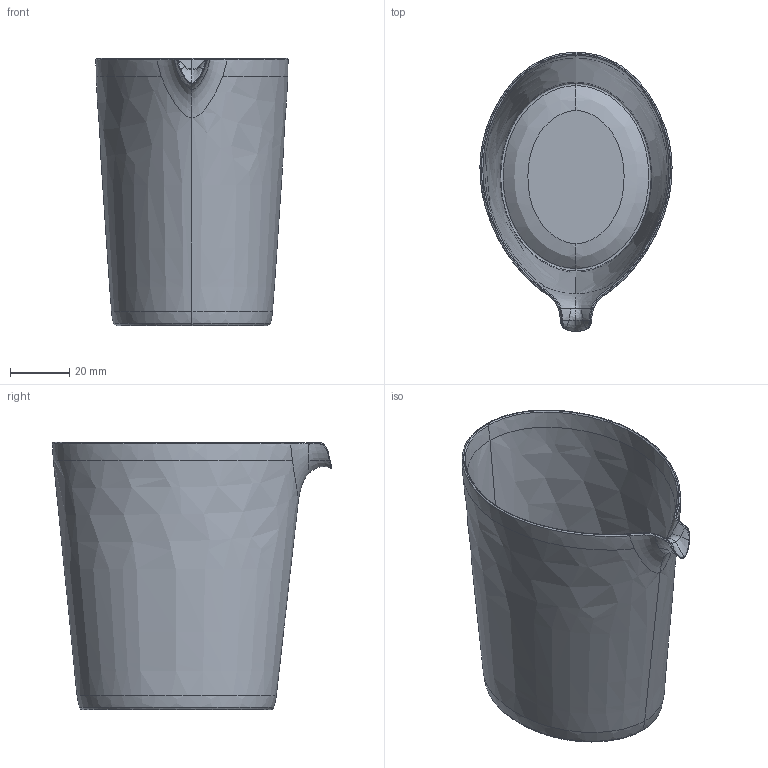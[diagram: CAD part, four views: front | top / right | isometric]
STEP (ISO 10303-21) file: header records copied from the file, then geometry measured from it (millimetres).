
FILE_DESCRIPTION(/* description */ (''),/* implementation_level */ '2;1');
FILE_NAME(/* name */ '公道杯123.stp',/* time_stamp */ '2015-03-26T15:52:30+08:00',/* author */ (''),/* organization */ (''),/* preprocessor_version */ 'ST-DEVELOPER v16',/* originating_system */ 'SIEMENS PLM Software NX 10.0',/* authorisation */ '');
FILE_SCHEMA (('AUTOMOTIVE_DESIGN { 1 0 10303 214 3 1 1 1 }'));
Length unit declared in the file: millimetre
Products named in the file (1): Admi1B44405Dt0qt
Bounding box: 64.76 x 94.12 x 90.01 mm (x, y, z)
Volume: 32653 mm3; surface area: 42935.3 mm2
Topology: 1 solids, 1 shells, 78 faces, 182 edges, 107 vertices
Faces by surface type: bspline 71, extrusion 4, plane 3
Entity records: 14731 total; most frequent: CARTESIAN_POINT 13529, ORIENTED_EDGE 364, EDGE_CURVE 182, B_SPLINE_CURVE_WITH_KNOTS 173, VERTEX_POINT 107, EDGE_LOOP 79, ADVANCED_FACE 78, FACE_OUTER_BOUND 77
